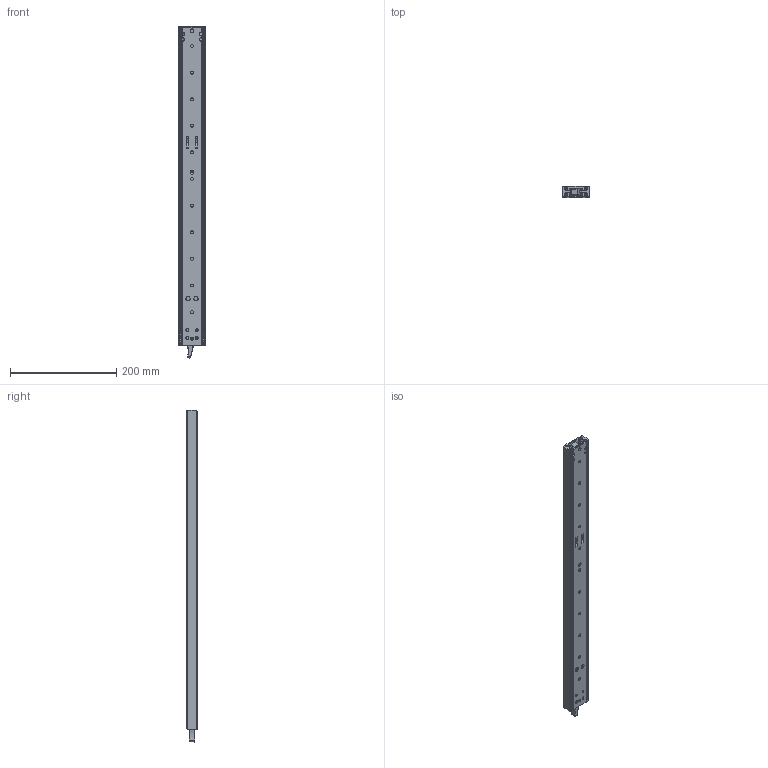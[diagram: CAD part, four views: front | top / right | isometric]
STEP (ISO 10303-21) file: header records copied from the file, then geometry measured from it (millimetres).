
FILE_DESCRIPTION (( 'STEP AP214' ), '1' );
FILE_NAME ('220-600-closed.STEP', '2024-08-20T09:47:06', ( '' ), ( '' ), 'SwSTEP 2.0', 'SolidWorks 2024', '' );
FILE_SCHEMA (( 'AUTOMOTIVE_DESIGN' ));
Length unit declared in the file: millimetre
Products named in the file (13): 61_12279_14.STEP_Part135; 61_13331_Pin Fitted_12.STEP_Part137; 61_12276_12.STEP_Part145; 370_002_070_12.STEP_Part141; 400_000_005_2.STEP_Part146; 400_000_004_12.STEP_Part143; 61_12282_12.STEP_Part138; 61_12278_20.STEP_Part144; 61_12284_14_closed.STEP_Assem25; 61_12274_12.STEP_Part140; 61_12280_14_Beam Assembled - Stop Raises .STEP_Part136; 220-600-closed; 301_000_008_Fitted_12.STEP_Part139
Assembly tree (61 placements, depth 3):
  220-600-closed
    61_12284_14_closed.STEP_Assem25
      61_12279_14.STEP_Part135
      61_12280_14_Beam Assembled - Stop Raises .STEP_Part136  x2
      61_13331_Pin Fitted_12.STEP_Part137  x2
      61_12282_12.STEP_Part138
      301_000_008_Fitted_12.STEP_Part139  x2
      61_12274_12.STEP_Part140
      370_002_070_12.STEP_Part141  x2
      400_000_004_12.STEP_Part143  x8
      61_12278_20.STEP_Part144  x4
      61_12276_12.STEP_Part145
      400_000_005_2.STEP_Part146  x36
Bounding box: 50.7 x 19.75 x 623.69 mm (x, y, z)
Volume: 349929.1 mm3; surface area: 242881.8 mm2
Topology: 60 solids, 60 shells, 1635 faces, 4291 edges, 2640 vertices
Faces by surface type: cylinder 620, sphere 497, plane 307, cone 92, torus 73, bspline 46
Entity records: 31178 total; most frequent: CARTESIAN_POINT 9154, DIRECTION 4814, ORIENTED_EDGE 4390, EDGE_CURVE 2195, AXIS2_PLACEMENT_3D 1967, VERTEX_POINT 1363, CIRCLE 1085, EDGE_LOOP 1004
